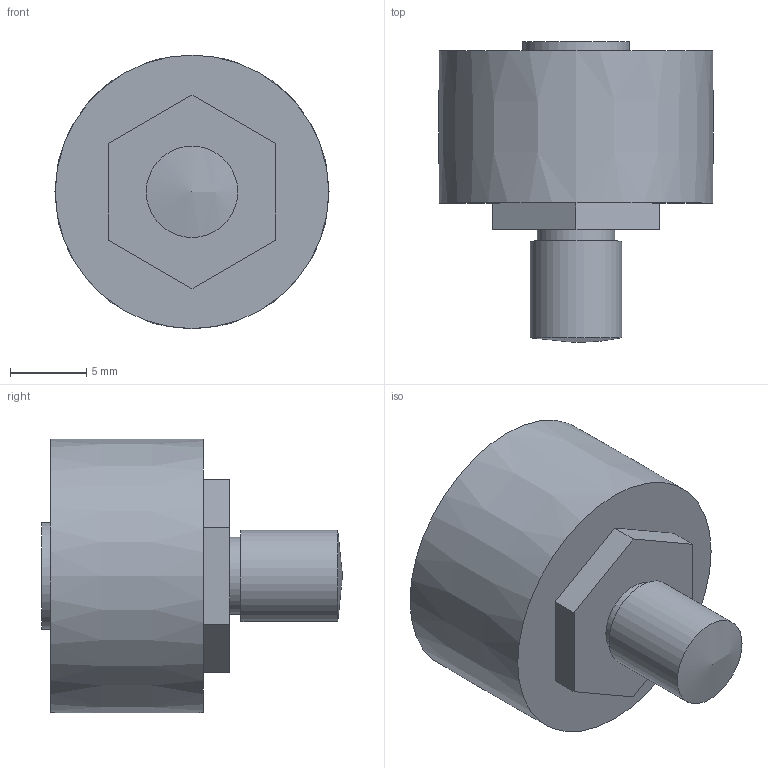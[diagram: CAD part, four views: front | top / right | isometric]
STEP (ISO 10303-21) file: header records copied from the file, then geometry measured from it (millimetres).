
FILE_DESCRIPTION( ( 'STEP AP203' ), '1' );
FILE_NAME( 'p:/temp/worker_106/temp/exporttempdir_768_820_Gftje/format_0/BHR18C.stp', '2021-09-29T07:20:08', ( 'License CC BY-ND 4.0' ), ( 'CADENAS' ), ' ', 'PARTsolutions', ' ' );
FILE_SCHEMA( ( 'CONFIG_CONTROL_DESIGN' ) );
Length unit declared in the file: millimetre
Products named in the file (2): BHR18C; _BHR18CNS_C
Assembly tree (1 placements, depth 2):
  BHR18C
    _BHR18CNS_C
Bounding box: 17.99 x 19.75 x 17.97 mm (x, y, z)
Volume: 2937.3 mm3; surface area: 1312.3 mm2
Topology: 1 solids, 1 shells, 23 faces, 52 edges, 35 vertices
Faces by surface type: plane 18, cylinder 3, bspline 1, sphere 1
Full cylindrical faces by diameter (mm): 5.08 x1, 6 x1, 7 x1
Entity records: 696 total; most frequent: CARTESIAN_POINT 129, DIRECTION 100, ORIENTED_EDGE 88, EDGE_CURVE 44, LINE 36, VECTOR 36, VERTEX_POINT 33, AXIS2_PLACEMENT_3D 32
